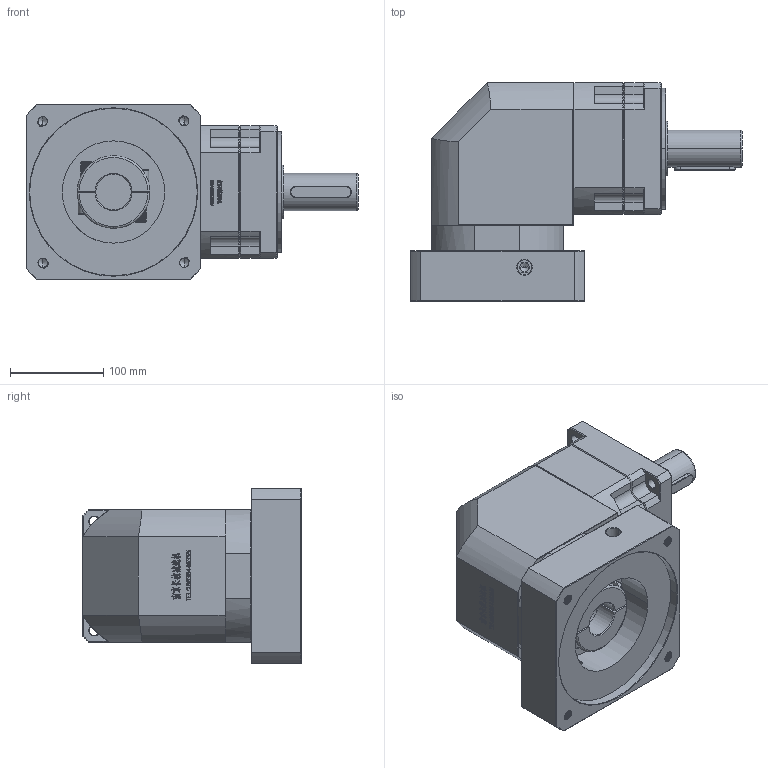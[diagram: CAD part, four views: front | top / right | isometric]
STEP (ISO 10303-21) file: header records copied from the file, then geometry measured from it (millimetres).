
FILE_DESCRIPTION (( 'STEP AP214' ), '1' );
FILE_NAME ('ZBR142A-D40-L1-38-180-215-M12.step', '2023-03-18T09:22:02', ( '' ), ( '' ), 'SwSTEP 2.0', 'SolidWorks 2016', '' );
FILE_SCHEMA (( 'AUTOMOTIVE_DESIGN' ));
Length unit declared in the file: millimetre
Products named in the file (1): ZBR142A-D40-L1-38-180-215-M12
Bounding box: 356.7 x 235 x 188 mm (x, y, z)
Volume: 6141288.4 mm3; surface area: 441144.8 mm2
Topology: 6 solids, 6 shells, 2892 faces, 7695 edges, 4952 vertices
Faces by surface type: plane 1540, bspline 592, cylinder 414, cone 324, torus 22
Entity records: 161887 total; most frequent: CARTESIAN_POINT 62785, ORIENTED_EDGE 15330, DIRECTION 11584, EDGE_CURVE 7665, VECTOR 5206, LINE 5206, VERTEX_POINT 4952, AXIS2_PLACEMENT_3D 3189
